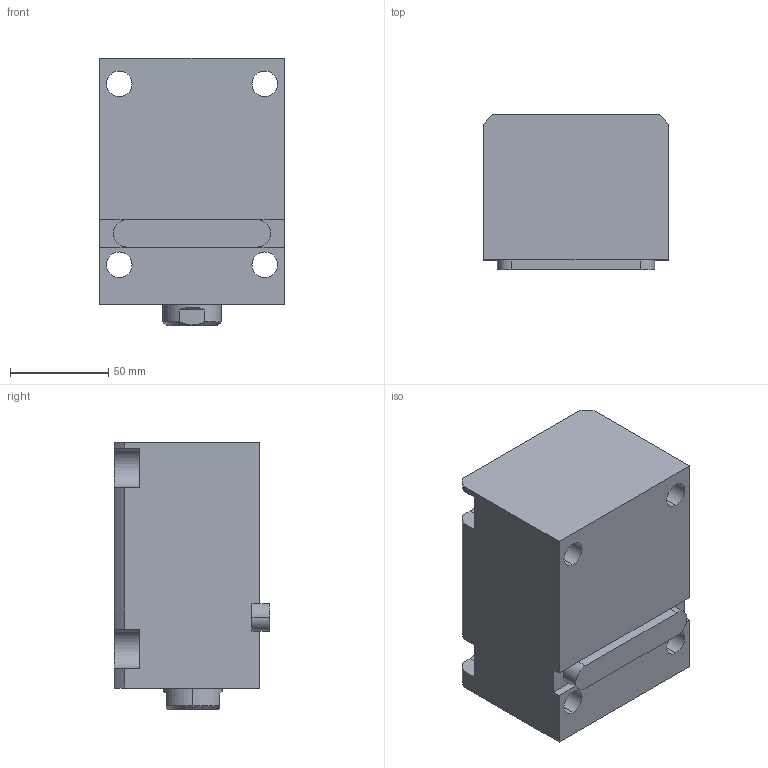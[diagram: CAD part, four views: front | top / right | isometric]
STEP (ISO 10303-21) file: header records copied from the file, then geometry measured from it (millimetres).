
FILE_DESCRIPTION (( 'STEP AP203' ), '1' );
FILE_NAME ('CHTB-LA50-65N.STEP', '2018-05-18T01:41:37', ( '' ), ( '' ), 'SwSTEP 2.0', 'SolidWorks 2015', '' );
FILE_SCHEMA (( 'CONFIG_CONTROL_DESIGN' ));
Length unit declared in the file: millimetre
Products named in the file (4): 掛极LA50-65N; 活塞杆LA50-65N; CHTM-SDMA50QG; CHTB-LA50-65N
Assembly tree (3 placements, depth 2):
  CHTB-LA50-65N
    掛极LA50-65N
    活塞杆LA50-65N
    CHTM-SDMA50QG
Bounding box: 94 x 79 x 136 mm (x, y, z)
Volume: 731511.3 mm3; surface area: 121426.2 mm2
Topology: 3 solids, 3 shells, 202 faces, 542 edges, 358 vertices
Faces by surface type: cylinder 96, plane 53, cone 23, torus 16, bspline 14
Entity records: 11255 total; most frequent: CARTESIAN_POINT 5992, ORIENTED_EDGE 1072, DIRECTION 958, EDGE_CURVE 536, AXIS2_PLACEMENT_3D 377, VERTEX_POINT 358, EDGE_LOOP 234, VECTOR 204
